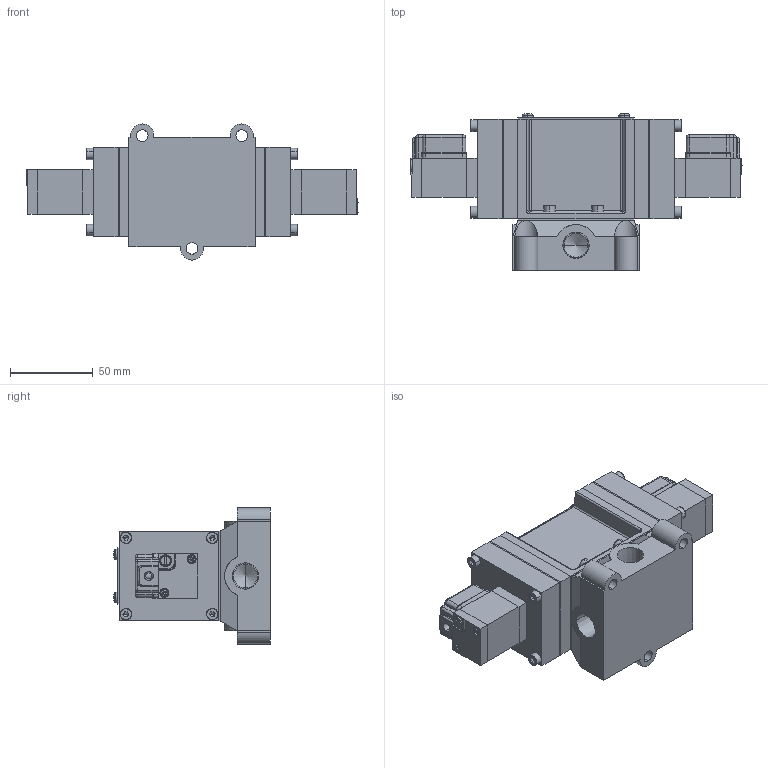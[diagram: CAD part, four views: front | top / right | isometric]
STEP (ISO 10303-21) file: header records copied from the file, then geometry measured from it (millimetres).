
FILE_DESCRIPTION (( 'STEP AP203' ), '1' );
FILE_NAME ('PMD(E)3408#-03-#G#.STEP', '2016-03-09T05:41:28', ( 'Sam Lin' ), ( '' ), 'SwSTEP 2.0', 'SolidWorks 2013', '' );
FILE_SCHEMA (( 'CONFIG_CONTROL_DESIGN' ));
Length unit declared in the file: metre
Products named in the file (17): ISO 4762 M4 x 10; PMS2408-4; PM06-G1; PM06-C1; PMS2408-5; PMD(E)3408#-03-#G#; PM06-C4; PMS2408-7; PM06-C6-M3; PMS2408-8; PM08-MARK-2408; PM06-C3-M4; PMS2408-9; PMS2408-2; PMS2408-1(03); PMS2408-3; PM06-C5
Assembly tree (40 placements, depth 2):
  PMD(E)3408#-03-#G#
    PMS2408-2
    PMS2408-3
    PMS2408-4  x2
    PMS2408-5  x2
    PMS2408-7
    PMS2408-8  x2
    PM08-MARK-2408
    PM06-C3-M4  x4
    PMS2408-9  x2
    PMS2408-1(03)
    ISO 4762 M4 x 10  x11
    PM06-C1  x2
    PM06-C4  x2
    PM06-C6-M3  x4
    PM06-C5  x2
    PM06-G1  x2
Bounding box: 200 x 94.35 x 82 mm (x, y, z)
Volume: 531033.8 mm3; surface area: 141354.3 mm2
Topology: 46 solids, 46 shells, 1097 faces, 2586 edges, 1577 vertices
Faces by surface type: plane 570, cylinder 249, cone 138, bspline 132, torus 8
Entity records: 17935 total; most frequent: CARTESIAN_POINT 4336, DIRECTION 2358, ORIENTED_EDGE 2266, EDGE_CURVE 1133, AXIS2_PLACEMENT_3D 854, VERTEX_POINT 717, LINE 650, VECTOR 650
